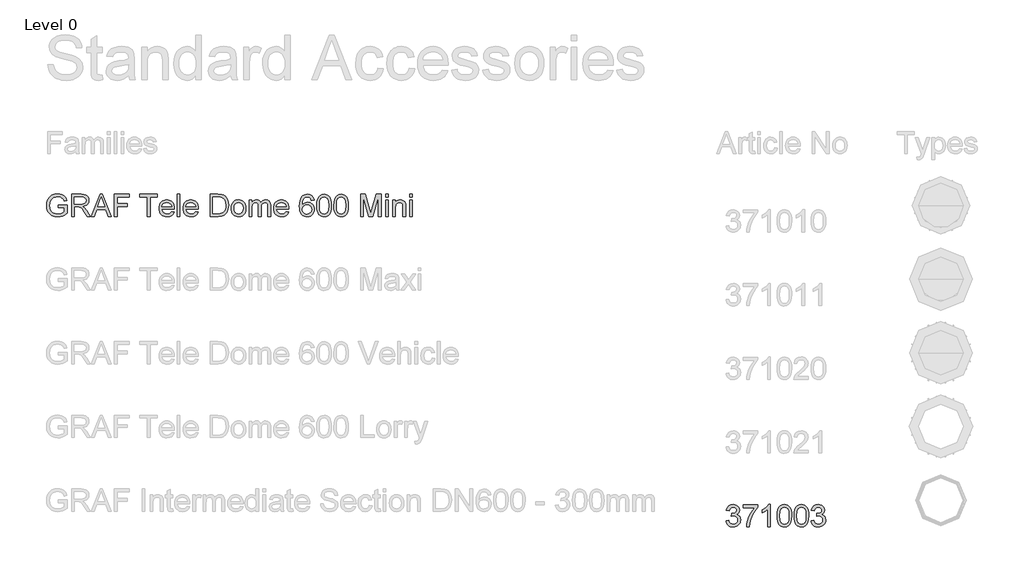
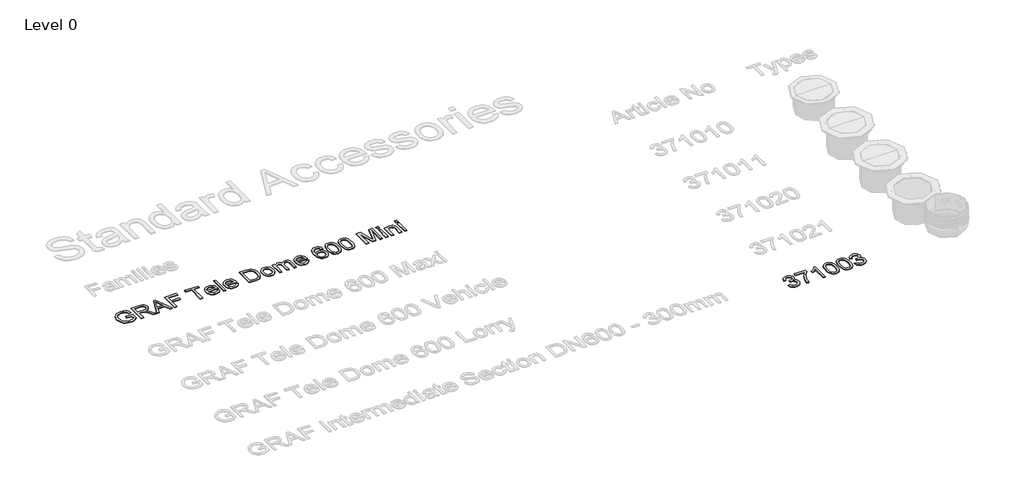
# One storey, part 6 of 14: 2 proxies.
"""IFC4 building model written with IfcOpenShell, lengths in millimetres."""

from ifc_helpers import new_model, si_unit, origin, origin_with_axes, place, context, project, spatial, polyline, outline, extrude, element, save

model = new_model("IFC4")

# Units and contexts
model_context = context("Model", 3, world=origin())
ifc_project = project(units=[si_unit("LENGTHUNIT", "METRE", prefix="MILLI")], contexts=[model_context])

# Site, building, storey
site = spatial("IfcSite", under=ifc_project)
building = spatial("IfcBuilding", under=site)
storey = spatial("IfcBuildingStorey", under=building, Name="Level 0", Elevation=0.0)

# Proxies
placement = place(None, origin())
element("IfcBuildingElementProxy", 1, Name="300mm Arial", ObjectType="300mm Arial", at=placement, inside=storey, context=model_context, shape_type="SweptSolid", body=[
    extrude(outline(polyline([(-15240.9940387, -8082.8803891), (-15240.9940387, -8045.2092728), (-15118.5629107, -8045.2092728), (-15118.5629107, -8157.8547397), (-15148.3153671, -8178.5481019), (-15179.0059225, -8193.3921404), (-15210.5610007, -8202.3316729), (-15242.9070251, -8205.3115171), (-15285.1674693, -8200.5750364), (-15323.3628175, -8186.3655943), (-15355.0926395, -8163.1798316), (-15377.9565055, -8131.5143888), (-15391.7796715, -8093.5305728), (-15396.3873935, -8051.3896903), (-15391.7980656, -8008.9453051), (-15378.0300819, -7969.46237), (-15355.6536596, -7936.3437934), (-15325.2390156, -7912.9924837), (-15288.1932987, -7899.1417266), (-15245.9236575, -7894.5248075), (-15214.8928112, -7897.2011491), (-15186.9889618, -7905.2301736), (-15163.4904994, -7918.032467), (-15145.6758138, -7935.0286152), (-15132.4964413, -7957.0371556), (-15122.9039183, -7984.8766256), (-15157.6319786, -7994.6622866), (-15165.3850917, -7974.8058559), (-15174.8120678, -7959.8238617), (-15187.2832674, -7948.5298844), (-15204.169051, -7939.7375048), (-15224.3013932, -7934.0813191), (-15246.5122687, -7932.1959239), (-15272.5123287, -7934.2284719), (-15294.7415982, -7940.3261159), (-15313.1173039, -7949.7255009), (-15327.5566722, -7961.6632717), (-15346.9440533, -7990.6891611), (-15355.7732212, -8019.1264393), (-15358.7162772, -8049.8445859), (-15355.175413, -8085.8694303), (-15344.5528204, -8115.5115221), (-15327.1703961, -8138.5593291), (-15303.3500369, -8154.8013191), (-15275.4737787, -8164.4306304), (-15245.9236575, -8167.6404008), (-15219.831627, -8165.2215767), (-15194.3833899, -8157.9651043), (-15172.2828791, -8147.9679111), (-15156.234027, -8137.3269244), (-15156.234027, -8082.8803891), (-15240.9940387, -8082.8803891)])), origin_with_axes(), (0.0, 0.0, 1.0), 10.0),
    extrude(outline(polyline([(-15057.3473467, -8200.6026275), (-15057.3473467, -7899.2336971), (-14927.4850024, -7899.2336971), (-14892.5821982, -7901.2662451), (-14867.1891434, -7907.3638892), (-14848.6294968, -7918.6210782), (-14834.2269167, -7936.1322612), (-14824.9838815, -7957.846496), (-14821.9028698, -7981.7128404), (-14827.0072325, -8011.4009174), (-14842.3203206, -8036.0122229), (-14853.9200997, -8046.0416058), (-14868.3019865, -8054.0568348), (-14905.4120827, -8064.0448309), (-14884.0013506, -8080.1580623), (-14853.467145, -8118.9328246), (-14803.2144645, -8200.6026275), (-14846.9924219, -8200.6026275), (-14886.2086426, -8138.1362648), (-14914.5355562, -8096.7863285), (-14934.4379722, -8077.2517946), (-14952.3538253, -8070.0780956), (-14974.2060158, -8068.7537205), (-15019.6762304, -8068.7537205), (-15019.6762304, -8200.6026275), (-15057.3473467, -8200.6026275)]), holes=[polyline([(-15019.6762304, -8031.0826042), (-14935.3576771, -8031.0826042), (-14911.1418448, -8029.7490319), (-14892.3522719, -8025.7483152), (-14878.2072092, -8018.8137396), (-14867.9249074, -8008.6785907), (-14861.6617165, -7996.4189232), (-14859.5739861, -7983.110792), (-14863.5563087, -7964.7350863), (-14875.5032765, -7949.927836), (-14896.058683, -7940.1605691), (-14925.8663217, -7936.9048134), (-15019.6762304, -7936.9048134), (-15019.6762304, -8031.0826042)])]), origin_with_axes(), (0.0, 0.0, 1.0), 10.0),
    extrude(outline(polyline([(-14791.0743586, -8200.6026275), (-14670.7769462, -7899.2336971), (-14638.6976362, -7899.2336971), (-14518.4002238, -8200.6026275), (-14558.2050557, -8200.6026275), (-14592.7123868, -8106.4248368), (-14716.835772, -8106.4248368), (-14751.2695268, -8200.6026275), (-14791.0743586, -8200.6026275)]), holes=[polyline([(-14703.003409, -8068.7537205), (-14606.4711735, -8068.7537205), (-14633.6208647, -7994.6622866), (-14654.7372912, -7936.9048134), (-14673.499273, -7988.1875635), (-14703.003409, -8068.7537205)])]), origin_with_axes(), (0.0, 0.0, 1.0), 10.0),
    extrude(outline(polyline([(-14478.1539335, -8200.6026275), (-14478.1539335, -7899.2336971), (-14275.6716834, -7899.2336971), (-14275.6716834, -7936.9048134), (-14440.4828172, -7936.9048134), (-14440.4828172, -8026.3737146), (-14299.2161311, -8026.3737146), (-14299.2161311, -8064.0448309), (-14440.4828172, -8064.0448309), (-14440.4828172, -8200.6026275), (-14478.1539335, -8200.6026275)])), origin_with_axes(), (0.0, 0.0, 1.0), 10.0),
    extrude(outline(polyline([(-14030.8094274, -8200.6026275), (-14030.8094274, -7936.9048134), (-14129.6961077, -7936.9048134), (-14129.6961077, -7899.2336971), (-13894.2516308, -7899.2336971), (-13894.2516308, -7936.9048134), (-13993.1383111, -7936.9048134), (-13993.1383111, -8200.6026275), (-14030.8094274, -8200.6026275)])), origin_with_axes(), (0.0, 0.0, 1.0), 10.0),
    extrude(outline(polyline([(-13701.6286181, -8134.678174), (-13664.6932658, -8139.3870635), (-13678.001397, -8167.2173365), (-13699.2373851, -8188.0210633), (-13727.9229837, -8200.9889036), (-13763.5799461, -8205.3115171), (-13786.9542484, -8203.4468152), (-13807.7809678, -8197.8527096), (-13826.0601045, -8188.5292003), (-13841.7916583, -8175.4762873), (-13854.4422004, -8159.057254), (-13863.4783019, -8139.6353839), (-13868.8999628, -8117.210677), (-13870.7071831, -8091.7831334), (-13868.8815687, -8065.4933663), (-13863.4047255, -8042.3213991), (-13854.2766535, -8022.2672319), (-13841.4973527, -8005.3308645), (-13825.8071856, -7991.8755805), (-13807.9465147, -7982.2646634), (-13787.9153401, -7976.4981131), (-13765.7136617, -7974.5759297), (-13744.2270539, -7976.4935146), (-13724.7959868, -7982.2462693), (-13707.4204603, -7991.8341938), (-13692.1004744, -8005.2572881), (-13679.5947859, -8022.1568673), (-13670.6621512, -8042.1742463), (-13665.3025704, -8065.3094253), (-13663.5160434, -8091.5624042), (-13663.7367726, -8101.7159472), (-13833.0360668, -8101.7159472), (-13826.5153584, -8129.9141022), (-13811.3678173, -8150.6442526), (-13789.5064297, -8163.3913637), (-13762.8441821, -8167.6404008), (-13742.7946134, -8165.6722321), (-13725.9088298, -8159.7677261), (-13712.1868314, -8149.5590007), (-13701.6286181, -8134.678174)]), holes=[polyline([(-13833.0360668, -8064.0448309), (-13701.1871597, -8064.0448309), (-13706.2823254, -8044.142415), (-13716.2703215, -8029.9053818), (-13738.2328766, -8016.6616299), (-13765.8608145, -8012.247046), (-13791.2538692, -8015.7695161), (-13812.2507341, -8026.3369264), (-13826.8464522, -8042.8088428), (-13833.0360668, -8064.0448309)])]), origin_with_axes(), (0.0, 0.0, 1.0), 10.0),
    extrude(outline(polyline([(-13625.8449271, -8200.6026275), (-13625.8449271, -7899.2336971), (-13588.1738108, -7899.2336971), (-13588.1738108, -8200.6026275), (-13625.8449271, -8200.6026275)])), origin_with_axes(), (0.0, 0.0, 1.0), 10.0),
    extrude(outline(polyline([(-13376.71524, -8134.678174), (-13339.7798877, -8139.3870635), (-13353.0880188, -8167.2173365), (-13374.324007, -8188.0210633), (-13403.0096056, -8200.9889036), (-13438.666568, -8205.3115171), (-13462.0408702, -8203.4468152), (-13482.8675897, -8197.8527096), (-13501.1467263, -8188.5292003), (-13516.8782801, -8175.4762873), (-13529.5288222, -8159.057254), (-13538.5649238, -8139.6353839), (-13543.9865847, -8117.210677), (-13545.793805, -8091.7831334), (-13543.9681906, -8065.4933663), (-13538.4913474, -8042.3213991), (-13529.3632754, -8022.2672319), (-13516.5839745, -8005.3308645), (-13500.8938074, -7991.8755805), (-13483.0331366, -7982.2646634), (-13463.0019619, -7976.4981131), (-13440.8002835, -7974.5759297), (-13419.3136758, -7976.4935146), (-13399.8826086, -7982.2462693), (-13382.5070821, -7991.8341938), (-13367.1870963, -8005.2572881), (-13354.6814077, -8022.1568673), (-13345.748773, -8042.1742463), (-13340.3891922, -8065.3094253), (-13338.6026653, -8091.5624042), (-13338.8233945, -8101.7159472), (-13508.1226887, -8101.7159472), (-13501.6019803, -8129.9141022), (-13486.4544391, -8150.6442526), (-13464.5930516, -8163.3913637), (-13437.930804, -8167.6404008), (-13417.8812352, -8165.6722321), (-13400.9954517, -8159.7677261), (-13387.2734532, -8149.5590007), (-13376.71524, -8134.678174)]), holes=[polyline([(-13508.1226887, -8064.0448309), (-13376.2737816, -8064.0448309), (-13381.3689472, -8044.142415), (-13391.3569434, -8029.9053818), (-13413.3194985, -8016.6616299), (-13440.9474363, -8012.247046), (-13466.3404911, -8015.7695161), (-13487.3373559, -8026.3369264), (-13501.9330741, -8042.8088428), (-13508.1226887, -8064.0448309)])]), origin_with_axes(), (0.0, 0.0, 1.0), 10.0),
    extrude(outline(polyline([(-13178.500421, -8200.6026275), (-13178.500421, -7899.2336971), (-13074.5369691, -7899.2336971), (-13020.7526214, -7903.5747046), (-12996.7299272, -7911.94402), (-12976.4596292, -7925.1325895), (-12955.6191142, -7948.088426), (-12940.7750757, -7976.6360689), (-12931.8907255, -8010.223695), (-12928.9292754, -8048.2994815), (-12930.9342323, -8080.645506), (-12936.9491029, -8109.1103753), (-12946.1093646, -8133.3446018), (-12957.5504947, -8152.9986974), (-12970.7206701, -8168.5141205), (-12985.0680679, -8180.3323296), (-13001.5399842, -8189.0971181), (-13021.0837152, -8195.4522796), (-13069.533774, -8200.6026275), (-13178.500421, -8200.6026275)]), holes=[polyline([(-13140.8293047, -8162.9315112), (-13074.1690871, -8162.9315112), (-13046.5963316, -8161.5703478), (-13025.6822402, -8157.4868577), (-13009.9001026, -8150.9201641), (-12997.7232085, -8142.1093903), (-12984.6358066, -8125.8030209), (-12974.8041602, -8104.6957914), (-12968.6513339, -8078.6957314), (-12966.6003918, -8047.7108703), (-12970.6195026, -8006.6552397), (-12982.6768349, -7976.3417633), (-13000.4915206, -7955.5196424), (-13021.782691, -7942.9380781), (-13043.4509405, -7938.4131296), (-13075.1991567, -7936.9048134), (-13140.8293047, -7936.9048134), (-13140.8293047, -8162.9315112)])]), origin_with_axes(), (0.0, 0.0, 1.0), 10.0),
    extrude(outline(polyline([(-12891.2581591, -8089.9437234), (-12889.2210126, -8061.2811174), (-12883.1095729, -8036.58244), (-12872.9238402, -8015.847691), (-12858.6638144, -7999.0768706), (-12844.3072195, -7988.3577089), (-12828.4607026, -7980.7011649), (-12811.1242635, -7976.1072385), (-12792.2979024, -7974.5759297), (-12771.514869, -7976.4406316), (-12752.7229968, -7982.0347372), (-12735.9222859, -7991.3582465), (-12721.1127364, -8004.4111595), (-12709.0255136, -8020.7520179), (-12700.391783, -8039.9393632), (-12695.2115447, -8061.9731954), (-12693.4847985, -8086.8535146), (-12696.5382191, -8124.910907), (-12705.6984808, -8153.8816141), (-12720.6988691, -8175.5774548), (-12741.2726697, -8191.8102479), (-12765.7092312, -8201.9361998), (-12792.2979024, -8205.3115171), (-12813.3844386, -8203.453713), (-12832.3510547, -8197.8803008), (-12849.1977508, -8188.5912804), (-12863.9245269, -8175.5866519), (-12875.882991, -8159.0871444), (-12884.4247511, -8139.3134871), (-12889.5498071, -8116.2656801), (-12891.2581591, -8089.9437234)]), holes=[polyline([(-12853.5870428, -8089.870147), (-12849.2276412, -8123.9636109), (-12836.1494363, -8148.2530196), (-12816.4677495, -8162.7935555), (-12792.2979024, -8167.6404008), (-12768.23842, -8162.7659643), (-12748.5935214, -8148.142655), (-12735.5153165, -8123.5313495), (-12731.1559148, -8088.6929246), (-12735.5429076, -8055.5927421), (-12748.703886, -8031.6344272), (-12768.3763757, -8017.0938913), (-12792.2979024, -8012.247046), (-12816.4677495, -8017.0754972), (-12836.1494363, -8031.5608508), (-12849.2276412, -8055.7950772), (-12853.5870428, -8089.870147)])]), origin_with_axes(), (0.0, 0.0, 1.0), 10.0),
    extrude(outline(polyline([(-12651.1047927, -8200.6026275), (-12651.1047927, -7979.2848192), (-12613.4336764, -7979.2848192), (-12613.4336764, -8015.7051368), (-12602.1029109, -7998.975703), (-12587.5347839, -7985.869907), (-12570.2259361, -7977.399424), (-12550.673008, -7974.5759297), (-12529.7221284, -7977.4546063), (-12512.9283153, -7986.0906361), (-12500.3835393, -7999.9138021), (-12492.1797708, -8018.3538871), (-12478.4485753, -7999.2010308), (-12462.7859994, -7985.5204191), (-12445.1920429, -7977.312052), (-12425.666706, -7974.5759297), (-12397.3489895, -7979.1284694), (-12376.4073069, -7992.7860885), (-12363.4670577, -8015.9166689), (-12359.1536413, -8048.8880927), (-12359.1536413, -8200.6026275), (-12396.8247576, -8200.6026275), (-12396.8247576, -8065.0749005), (-12400.3196366, -8033.6209899), (-12405.2308612, -8024.9481719), (-12412.9747772, -8018.1331579), (-12422.9351822, -8013.718574), (-12434.4958739, -8012.247046), (-12454.9041276, -8016.0178365), (-12471.5415908, -8027.3302078), (-12482.6056419, -8046.9567123), (-12486.2936589, -8075.669902), (-12486.2936589, -8200.6026275), (-12523.9647752, -8200.6026275), (-12523.9647752, -8060.8810458), (-12526.144476, -8039.5806782), (-12532.6835784, -8024.3871518), (-12544.1890878, -8015.2820725), (-12561.2680095, -8012.247046), (-12575.7809542, -8014.270397), (-12589.1534647, -8020.3404499), (-12600.1899246, -8030.310052), (-12607.6947173, -8044.0320504), (-12611.9989366, -8063.0699436), (-12613.4336764, -8088.9872302), (-12613.4336764, -8200.6026275), (-12651.1047927, -8200.6026275)])), origin_with_axes(), (0.0, 0.0, 1.0), 10.0),
    extrude(outline(polyline([(-12147.6950705, -8134.678174), (-12110.7597182, -8139.3870635), (-12124.0678494, -8167.2173365), (-12145.3038375, -8188.0210633), (-12173.9894361, -8200.9889036), (-12209.6463985, -8205.3115171), (-12233.0207007, -8203.4468152), (-12253.8474202, -8197.8527096), (-12272.1265568, -8188.5292003), (-12287.8581107, -8175.4762873), (-12300.5086528, -8159.057254), (-12309.5447543, -8139.6353839), (-12314.9664152, -8117.210677), (-12316.7736355, -8091.7831334), (-12314.9480211, -8065.4933663), (-12309.4711779, -8042.3213991), (-12300.3431059, -8022.2672319), (-12287.5638051, -8005.3308645), (-12271.873638, -7991.8755805), (-12254.0129671, -7982.2646634), (-12233.9817925, -7976.4981131), (-12211.7801141, -7974.5759297), (-12190.2935063, -7976.4935146), (-12170.8624391, -7982.2462693), (-12153.4869127, -7991.8341938), (-12138.1669268, -8005.2572881), (-12125.6612382, -8022.1568673), (-12116.7286035, -8042.1742463), (-12111.3690227, -8065.3094253), (-12109.5824958, -8091.5624042), (-12109.803225, -8101.7159472), (-12279.1025192, -8101.7159472), (-12272.5818108, -8129.9141022), (-12257.4342697, -8150.6442526), (-12235.5728821, -8163.3913637), (-12208.9106345, -8167.6404008), (-12188.8610658, -8165.6722321), (-12171.9752822, -8159.7677261), (-12158.2532838, -8149.5590007), (-12147.6950705, -8134.678174)]), holes=[polyline([(-12279.1025192, -8064.0448309), (-12147.2536121, -8064.0448309), (-12152.3487777, -8044.142415), (-12162.3367739, -8029.9053818), (-12184.299329, -8016.6616299), (-12211.9272668, -8012.247046), (-12237.3203216, -8015.7695161), (-12258.3171864, -8026.3369264), (-12272.9129046, -8042.8088428), (-12279.1025192, -8064.0448309)])]), origin_with_axes(), (0.0, 0.0, 1.0), 10.0),
    extrude(outline(polyline([(-11770.542449, -7979.2848192), (-11808.2135653, -7983.9937088), (-11814.2836183, -7965.3236975), (-11822.4873868, -7952.5765864), (-11839.5755054, -7940.8227566), (-11860.2320795, -7936.9048134), (-11877.7432624, -7939.1856818), (-11894.2243758, -7946.0282869), (-11908.3786356, -7960.440064), (-11919.9393273, -7980.2781006), (-11927.7476226, -8008.3382998), (-11930.6446933, -8047.4165647), (-11915.5339404, -8029.7858201), (-11897.4249492, -8017.3606057), (-11877.3293952, -8009.9937688), (-11856.2589539, -8007.5381565), (-11838.1591597, -8009.2166181), (-11821.4573172, -8014.2520029), (-11806.1534262, -8022.6443109), (-11792.2474868, -8034.3935421), (-11780.6913936, -8048.8007208), (-11772.4370413, -8065.166871), (-11767.48443, -8083.4919929), (-11765.8335595, -8103.7760864), (-11768.9421624, -8130.7510337), (-11778.2679709, -8155.7578123), (-11793.038433, -8176.9662093), (-11812.4809965, -8192.5460118), (-11835.7127445, -8202.1201408), (-11861.8507602, -8205.3115171), (-11884.3076568, -8203.1961956), (-11904.589451, -8196.8502312), (-11922.696143, -8186.2736238), (-11938.6277326, -8171.4663735), (-11951.6162663, -8151.8030809), (-11960.8937904, -8126.6583465), (-11966.4603048, -8096.0321704), (-11968.3158096, -8059.9245526), (-11966.2556705, -8019.4437375), (-11960.075253, -7984.8950197), (-11949.7745571, -7956.278399), (-11935.3535829, -7933.5938754), (-11919.7231966, -7918.5612974), (-11901.6004098, -7907.8237417), (-11880.9852225, -7901.3812082), (-11857.8776347, -7899.2336971), (-11824.8234374, -7904.5495919), (-11798.3543279, -7920.4972764), (-11779.8130753, -7945.8259518), (-11770.542449, -7979.2848192)]), holes=[polyline([(-11930.6446933, -8103.1874752), (-11928.4649925, -8119.8801207), (-11921.9258901, -8135.8186082), (-11911.772347, -8149.5222125), (-11898.7493244, -8159.5102087), (-11883.0315661, -8165.6078527), (-11864.7938162, -8167.6404008), (-11839.9341904, -8163.4281519), (-11820.3904594, -8150.7914054), (-11807.7261217, -8130.9257777), (-11803.5046758, -8105.0268852), (-11807.6709394, -8080.1672594), (-11820.1697302, -8061.2121396), (-11840.044555, -8049.2099895), (-11866.3389206, -8045.2092728), (-11891.1617582, -8049.2099895), (-11911.9194998, -8061.2121396), (-11925.9633949, -8079.7074069), (-11930.6446933, -8103.1874752)])]), origin_with_axes(), (0.0, 0.0, 1.0), 10.0),
    extrude(outline(polyline([(-11732.8713327, -8052.3461835), (-11730.1030207, -8004.1076569), (-11721.7980847, -7965.6363972), (-11708.0392981, -7936.3437934), (-11688.9094343, -7915.6412341), (-11664.2705377, -7903.3355813), (-11633.9846524, -7899.2336971), (-11610.7712985, -7901.6617183), (-11589.9859658, -7908.9457818), (-11572.6035415, -7920.8007791), (-11559.598913, -7936.9416016), (-11549.7764637, -7957.2302936), (-11541.9405772, -7981.5288994), (-11536.8086234, -8012.3850018), (-11535.0979721, -8052.3461835), (-11537.838693, -8100.3087986), (-11546.0608556, -8138.6880877), (-11559.7368687, -8168.0082828), (-11578.8391413, -8188.7936155), (-11603.5332203, -8201.1820417), (-11633.9846524, -8205.3115171), (-11654.733197, -8203.5180923), (-11673.1272967, -8198.1378182), (-11689.1669517, -8189.1706945), (-11702.8521619, -8176.6167215), (-11715.9855492, -8153.9230009), (-11725.36654, -8125.646671), (-11730.9951346, -8091.7877319), (-11732.8713327, -8052.3461835)]), holes=[polyline([(-11695.2002164, -8052.2726071), (-11690.7856325, -8111.5291995), (-11685.2674026, -8131.7971981), (-11677.5418807, -8145.8249985), (-11657.8234057, -8162.1865502), (-11633.9846524, -8167.6404008), (-11610.1458991, -8162.1681561), (-11590.4274242, -8145.7514221), (-11582.7019023, -8131.7006291), (-11577.1836724, -8111.437229), (-11572.7690884, -8052.2726071), (-11577.0365196, -7994.3495869), (-11582.3708085, -7974.1482669), (-11589.838813, -7959.7870735), (-11609.5204997, -7942.6253784), (-11634.4261108, -7936.9048134), (-11658.0073467, -7941.9447967), (-11676.9532695, -7957.0647467), (-11684.9363088, -7972.6997315), (-11690.6384797, -7993.7793698), (-11695.2002164, -8052.2726071)])]), origin_with_axes(), (0.0, 0.0, 1.0), 10.0),
    extrude(outline(polyline([(-11502.1357454, -8052.3461835), (-11499.3674333, -8004.1076569), (-11491.0624973, -7965.6363972), (-11477.3037107, -7936.3437934), (-11458.1738469, -7915.6412341), (-11433.5349503, -7903.3355813), (-11403.2490651, -7899.2336971), (-11380.0357112, -7901.6617183), (-11359.2503784, -7908.9457818), (-11341.8679542, -7920.8007791), (-11328.8633256, -7936.9416016), (-11319.0408764, -7957.2302936), (-11311.2049899, -7981.5288994), (-11306.073036, -8012.3850018), (-11304.3623847, -8052.3461835), (-11307.1031056, -8100.3087986), (-11315.3252682, -8138.6880877), (-11329.0012814, -8168.0082828), (-11348.103554, -8188.7936155), (-11372.7976329, -8201.1820417), (-11403.2490651, -8205.3115171), (-11423.9976096, -8203.5180923), (-11442.3917093, -8198.1378182), (-11458.4313643, -8189.1706945), (-11472.1165745, -8176.6167215), (-11485.2499618, -8153.9230009), (-11494.6309527, -8125.646671), (-11500.2595472, -8091.7877319), (-11502.1357454, -8052.3461835)]), holes=[polyline([(-11464.464629, -8052.2726071), (-11460.0500451, -8111.5291995), (-11454.5318152, -8131.7971981), (-11446.8062933, -8145.8249985), (-11427.0878183, -8162.1865502), (-11403.2490651, -8167.6404008), (-11379.4103118, -8162.1681561), (-11359.6918368, -8145.7514221), (-11351.9663149, -8131.7006291), (-11346.448085, -8111.437229), (-11342.0335011, -8052.2726071), (-11346.3009322, -7994.3495869), (-11351.6352211, -7974.1482669), (-11359.1032256, -7959.7870735), (-11378.7849124, -7942.6253784), (-11403.6905234, -7936.9048134), (-11427.2717593, -7941.9447967), (-11446.2176821, -7957.0647467), (-11454.2007214, -7972.6997315), (-11459.9028923, -7993.7793698), (-11464.464629, -8052.2726071)])]), origin_with_axes(), (0.0, 0.0, 1.0), 10.0),
    extrude(outline(polyline([(-11139.5512509, -8200.6026275), (-11139.5512509, -7899.2336971), (-11074.7304434, -7899.2336971), (-11013.073421, -8111.6487611), (-11000.6390095, -8156.0153297), (-10987.1745285, -8107.9699412), (-10926.5475757, -7899.2336971), (-10861.7267682, -7899.2336971), (-10861.7267682, -8200.6026275), (-10899.3978845, -8200.6026275), (-10899.3978845, -7936.9048134), (-10975.1079991, -8200.6026275), (-11026.17002, -8200.6026275), (-11101.8801346, -7936.9048134), (-11101.8801346, -8200.6026275), (-11139.5512509, -8200.6026275)])), origin_with_axes(), (0.0, 0.0, 1.0), 10.0),
    extrude(outline(polyline([(-10800.5112042, -7936.9048134), (-10800.5112042, -7899.2336971), (-10762.8400878, -7899.2336971), (-10762.8400878, -7936.9048134), (-10800.5112042, -7936.9048134)])), origin_with_axes(), (0.0, 0.0, 1.0), 10.0),
    extrude(outline(polyline([(-10800.5112042, -8200.6026275), (-10800.5112042, -7979.2848192), (-10762.8400878, -7979.2848192), (-10762.8400878, -8200.6026275), (-10800.5112042, -8200.6026275)])), origin_with_axes(), (0.0, 0.0, 1.0), 10.0),
    extrude(outline(polyline([(-10706.3334134, -8200.6026275), (-10706.3334134, -7979.2848192), (-10668.6622971, -7979.2848192), (-10668.6622971, -8010.1869068), (-10655.5748951, -7994.6071043), (-10639.8571369, -7983.478674), (-10621.5090224, -7976.8016158), (-10600.5305516, -7974.5759297), (-10581.9617079, -7976.3693544), (-10564.9563626, -7981.7496286), (-10550.7745117, -7990.0453676), (-10540.676151, -8000.5851868), (-10529.3821737, -8028.286701), (-10527.3956109, -8064.7070185), (-10527.3956109, -8200.6026275), (-10565.0667272, -8200.6026275), (-10565.0667272, -8069.7837901), (-10569.4077348, -8036.4536813), (-10575.4134084, -8026.5300645), (-10584.748414, -8018.8321337), (-10596.7137759, -8013.8933179), (-10610.6105182, -8012.247046), (-10632.6742409, -8015.9442601), (-10651.4822079, -8027.0359022), (-10658.9984969, -8036.0903978), (-10664.3672748, -8048.4650284), (-10668.6622971, -8083.1746947), (-10668.6622971, -8200.6026275), (-10706.3334134, -8200.6026275)])), origin_with_axes(), (0.0, 0.0, 1.0), 10.0),
    extrude(outline(polyline([(-10475.597826, -7936.9048134), (-10475.597826, -7899.2336971), (-10437.9267097, -7899.2336971), (-10437.9267097, -7936.9048134), (-10475.597826, -7936.9048134)])), origin_with_axes(), (0.0, 0.0, 1.0), 10.0),
    extrude(outline(polyline([(-10475.597826, -8200.6026275), (-10475.597826, -7979.2848192), (-10437.9267097, -7979.2848192), (-10437.9267097, -8200.6026275), (-10475.597826, -8200.6026275)])), origin_with_axes(), (0.0, 0.0, 1.0), 10.0),
])
element("IfcBuildingElementProxy", 2, Name="300mm Arial", ObjectType="300mm Arial", at=placement, inside=storey, context=model_context, shape_type="SweptSolid", body=[
    extrude(outline(polyline([(-6184.7460239, -12329.8209266), (-6147.0749076, -12325.1120371), (-6138.6412129, -12348.7852435), (-6126.2895749, -12364.7697162), (-6109.4129884, -12373.8747955), (-6087.404448, -12376.909822), (-6061.5791319, -12372.7343614), (-6041.6399278, -12360.2079794), (-6028.8928167, -12341.5195741), (-6024.6437796, -12318.8580432), (-6028.8560285, -12297.3461435), (-6041.492775, -12279.8993399), (-6060.6226388, -12268.3386482), (-6084.3142393, -12264.4850843), (-6110.7281665, -12268.6053626), (-6106.5343118, -12230.9342463), (-6100.501047, -12231.3757047), (-6077.9314866, -12228.671772), (-6057.7531592, -12220.5599741), (-6043.516126, -12206.8379756), (-6038.7704482, -12187.3034417), (-6042.2101449, -12171.0338605), (-6052.5292349, -12157.8360939), (-6068.2745843, -12149.0896994), (-6087.9930592, -12146.1742346), (-6107.7483223, -12149.1172906), (-6123.8983419, -12157.9464585), (-6135.6889599, -12172.6617383), (-6142.3660181, -12193.26313), (-6180.0371344, -12188.5542405), (-6168.9454922, -12154.727491), (-6149.2086232, -12129.472392), (-6122.2060848, -12113.7454368), (-6089.3174344, -12108.5031183), (-6065.6350309, -12111.0874893), (-6043.884008, -12118.8406024), (-6025.5450905, -12131.0726787), (-6012.0990036, -12147.0939396), (-6003.8492499, -12165.5524187), (-6001.0993319, -12185.0961497), (-6003.7112941, -12203.3063085), (-6011.5471806, -12219.8242101), (-6024.4966268, -12233.8956964), (-6042.4492682, -12244.7666093), (-6018.8680323, -12254.294753), (-6001.3936375, -12270.518349), (-5990.5779069, -12292.5544805), (-5986.9726633, -12319.5202308), (-5988.7752851, -12338.6317004), (-5994.1831504, -12356.2348539), (-6003.1962593, -12372.3296912), (-6015.8146117, -12386.9162123), (-6031.1874806, -12399.0195299), (-6048.4641388, -12407.6647568), (-6067.6445863, -12412.8518929), (-6088.7288232, -12414.5809383), (-6107.7851105, -12413.1048118), (-6125.1491407, -12408.6764323), (-6140.8209137, -12401.2957998), (-6154.8004295, -12390.9629142), (-6166.5220696, -12378.284781), (-6175.4202154, -12363.8684053), (-6181.4948668, -12347.7137872), (-6184.7460239, -12329.8209266)])), origin_with_axes(), (0.0, 0.0, 1.0), 10.0),
    extrude(outline(polyline([(-5954.0104366, -12150.8831242), (-5954.0104366, -12113.2120079), (-5756.237076, -12113.2120079), (-5756.237076, -12143.6726371), (-5784.4260338, -12179.3479935), (-5812.3390802, -12224.7170406), (-5836.9595827, -12275.6411058), (-5855.2709091, -12327.9815166), (-5864.2472297, -12367.142555), (-5869.2504249, -12409.8720488), (-5906.9215412, -12409.8720488), (-5902.8472481, -12371.0421042), (-5891.948744, -12324.8913079), (-5874.5203345, -12275.9721996), (-5850.8563251, -12228.8373189), (-5823.2283873, -12186.2273869), (-5793.9081923, -12150.8831242), (-5954.0104366, -12150.8831242)])), origin_with_axes(), (0.0, 0.0, 1.0), 10.0),
    extrude(outline(polyline([(-5582.008163, -12409.8720488), (-5619.6792793, -12409.8720488), (-5619.6792793, -12175.016183), (-5655.3638329, -12200.4368289), (-5695.021512, -12219.4563281), (-5695.021512, -12183.8453509), (-5665.4346025, -12167.7505136), (-5639.8024245, -12148.6022558), (-5619.5965059, -12128.2399874), (-5606.2883747, -12108.5031183), (-5582.008163, -12108.5031183), (-5582.008163, -12409.8720488)])), origin_with_axes(), (0.0, 0.0, 1.0), 10.0),
    extrude(outline(polyline([(-5492.5392618, -12261.6156047), (-5489.7709498, -12213.3770781), (-5481.4660138, -12174.9058184), (-5467.7072271, -12145.6132146), (-5448.5773634, -12124.9106553), (-5423.9384668, -12112.6050026), (-5393.6525815, -12108.5031183), (-5370.4392276, -12110.9311395), (-5349.6538949, -12118.215203), (-5332.2714706, -12130.0702003), (-5319.2668421, -12146.2110228), (-5309.4443928, -12166.4997149), (-5301.6085063, -12190.7983206), (-5296.4765525, -12221.654423), (-5294.7659012, -12261.6156047), (-5297.5066221, -12309.5782198), (-5305.7287847, -12347.957509), (-5319.4047978, -12377.277704), (-5338.5070704, -12398.0630367), (-5363.2011494, -12410.4514629), (-5393.6525815, -12414.5809383), (-5414.401126, -12412.7875136), (-5432.7952258, -12407.4072394), (-5448.8348808, -12398.4401158), (-5462.520091, -12385.8861427), (-5475.6534782, -12363.1924221), (-5485.0344691, -12334.9160923), (-5490.6630636, -12301.0571531), (-5492.5392618, -12261.6156047)]), holes=[polyline([(-5454.8681455, -12261.5420283), (-5450.4535616, -12320.7986207), (-5444.9353316, -12341.0666194), (-5437.2098097, -12355.0944197), (-5417.4913348, -12371.4559714), (-5393.6525815, -12376.909822), (-5369.8138282, -12371.4375773), (-5350.0953533, -12355.0208433), (-5342.3698314, -12340.9700503), (-5336.8516015, -12320.7066502), (-5332.4370175, -12261.5420283), (-5336.7044487, -12203.6190082), (-5342.0387376, -12183.4176881), (-5349.5067421, -12169.0564947), (-5369.1884288, -12151.8947997), (-5394.0940399, -12146.1742346), (-5417.6752758, -12151.214218), (-5436.6211985, -12166.334168), (-5444.6042378, -12181.9691528), (-5450.3064088, -12203.0487911), (-5454.8681455, -12261.5420283)])]), origin_with_axes(), (0.0, 0.0, 1.0), 10.0),
    extrude(outline(polyline([(-5261.8036744, -12261.6156047), (-5259.0353624, -12213.3770781), (-5250.7304264, -12174.9058184), (-5236.9716398, -12145.6132146), (-5217.841776, -12124.9106553), (-5193.2028794, -12112.6050026), (-5162.9169941, -12108.5031183), (-5139.7036402, -12110.9311395), (-5118.9183075, -12118.215203), (-5101.5358832, -12130.0702003), (-5088.5312547, -12146.2110228), (-5078.7088054, -12166.4997149), (-5070.8729189, -12190.7983206), (-5065.7409651, -12221.654423), (-5064.0303138, -12261.6156047), (-5066.7710347, -12309.5782198), (-5074.9931973, -12347.957509), (-5088.6692105, -12377.277704), (-5107.7714831, -12398.0630367), (-5132.465562, -12410.4514629), (-5162.9169941, -12414.5809383), (-5183.6655387, -12412.7875136), (-5202.0596384, -12407.4072394), (-5218.0992934, -12398.4401158), (-5231.7845036, -12385.8861427), (-5244.9178909, -12363.1924221), (-5254.2988817, -12334.9160923), (-5259.9274763, -12301.0571531), (-5261.8036744, -12261.6156047)]), holes=[polyline([(-5224.1325581, -12261.5420283), (-5219.7179742, -12320.7986207), (-5214.1997443, -12341.0666194), (-5206.4742224, -12355.0944197), (-5186.7557474, -12371.4559714), (-5162.9169941, -12376.909822), (-5139.0782408, -12371.4375773), (-5119.3597659, -12355.0208433), (-5111.634244, -12340.9700503), (-5106.1160141, -12320.7066502), (-5101.7014301, -12261.5420283), (-5105.9688613, -12203.6190082), (-5111.3031502, -12183.4176881), (-5118.7711547, -12169.0564947), (-5138.4528415, -12151.8947997), (-5163.3584525, -12146.1742346), (-5186.9396884, -12151.214218), (-5205.8856112, -12166.334168), (-5213.8686505, -12181.9691528), (-5219.5708214, -12203.0487911), (-5224.1325581, -12261.5420283)])]), origin_with_axes(), (0.0, 0.0, 1.0), 10.0),
    extrude(outline(polyline([(-5031.0680871, -12329.8209266), (-4993.3969708, -12325.1120371), (-4984.963276, -12348.7852435), (-4972.611638, -12364.7697162), (-4955.7350515, -12373.8747955), (-4933.7265111, -12376.909822), (-4907.9011951, -12372.7343614), (-4887.9619909, -12360.2079794), (-4875.2148798, -12341.5195741), (-4870.9658428, -12318.8580432), (-4875.1780916, -12297.3461435), (-4887.8148381, -12279.8993399), (-4906.9447019, -12268.3386482), (-4930.6363024, -12264.4850843), (-4957.0502296, -12268.6053626), (-4952.8563749, -12230.9342463), (-4946.8231102, -12231.3757047), (-4924.2535498, -12228.671772), (-4904.0752223, -12220.5599741), (-4889.8381891, -12206.8379756), (-4885.0925114, -12187.3034417), (-4888.532208, -12171.0338605), (-4898.851298, -12157.8360939), (-4914.5966474, -12149.0896994), (-4934.3151223, -12146.1742346), (-4954.0703855, -12149.1172906), (-4970.2204051, -12157.9464585), (-4982.011023, -12172.6617383), (-4988.6880812, -12193.26313), (-5026.3591975, -12188.5542405), (-5015.2675554, -12154.727491), (-4995.5306863, -12129.472392), (-4968.5281479, -12113.7454368), (-4935.6394975, -12108.5031183), (-4911.9570941, -12111.0874893), (-4890.2060711, -12118.8406024), (-4871.8671536, -12131.0726787), (-4858.4210667, -12147.0939396), (-4850.171313, -12165.5524187), (-4847.4213951, -12185.0961497), (-4850.0333572, -12203.3063085), (-4857.8692437, -12219.8242101), (-4870.81869, -12233.8956964), (-4888.7713313, -12244.7666093), (-4865.1900954, -12254.294753), (-4847.7157007, -12270.518349), (-4836.89997, -12292.5544805), (-4833.2947265, -12319.5202308), (-4835.0973482, -12338.6317004), (-4840.5052136, -12356.2348539), (-4849.5183224, -12372.3296912), (-4862.1366749, -12386.9162123), (-4877.5095437, -12399.0195299), (-4894.7862019, -12407.6647568), (-4913.9666495, -12412.8518929), (-4935.0508863, -12414.5809383), (-4954.1071737, -12413.1048118), (-4971.4712038, -12408.6764323), (-4987.1429768, -12401.2957998), (-5001.1224927, -12390.9629142), (-5012.8441327, -12378.284781), (-5021.7422785, -12363.8684053), (-5027.8169299, -12347.7137872), (-5031.0680871, -12329.8209266)])), origin_with_axes(), (0.0, 0.0, 1.0), 10.0),
])

save(model, "model.ifc")
